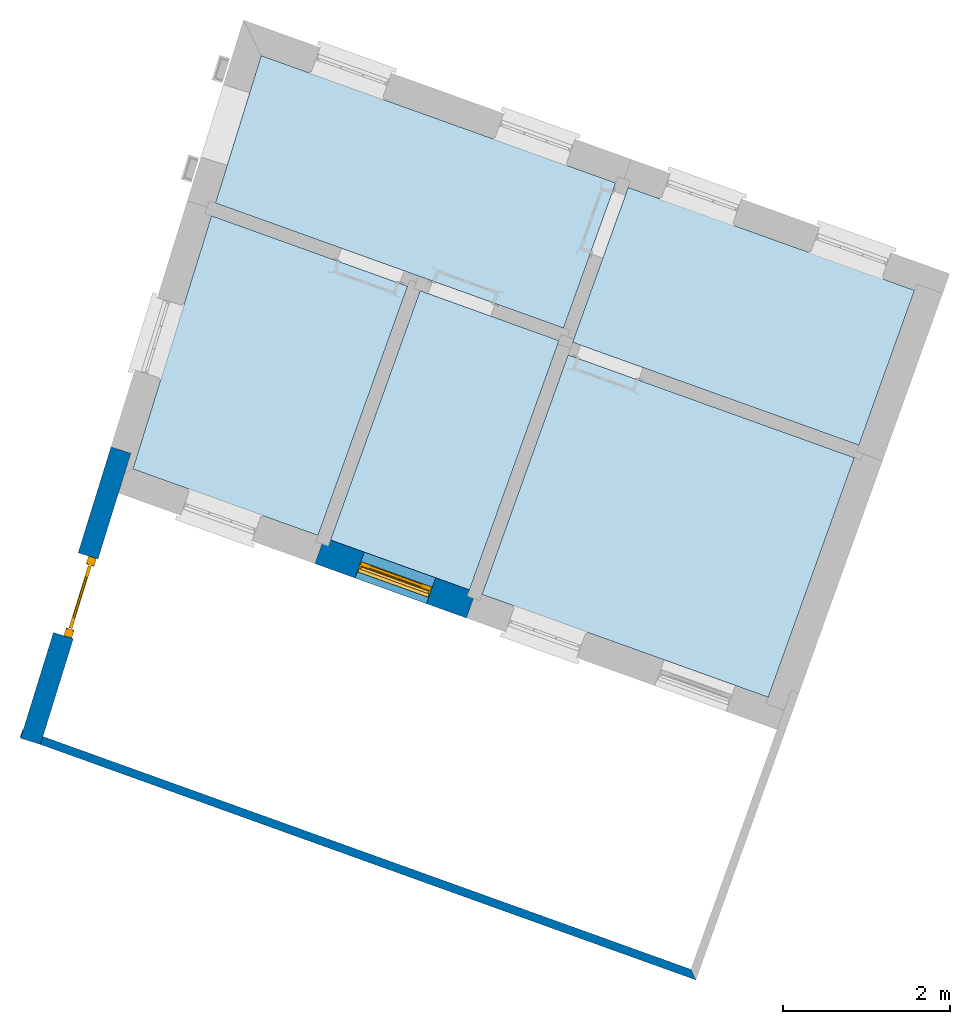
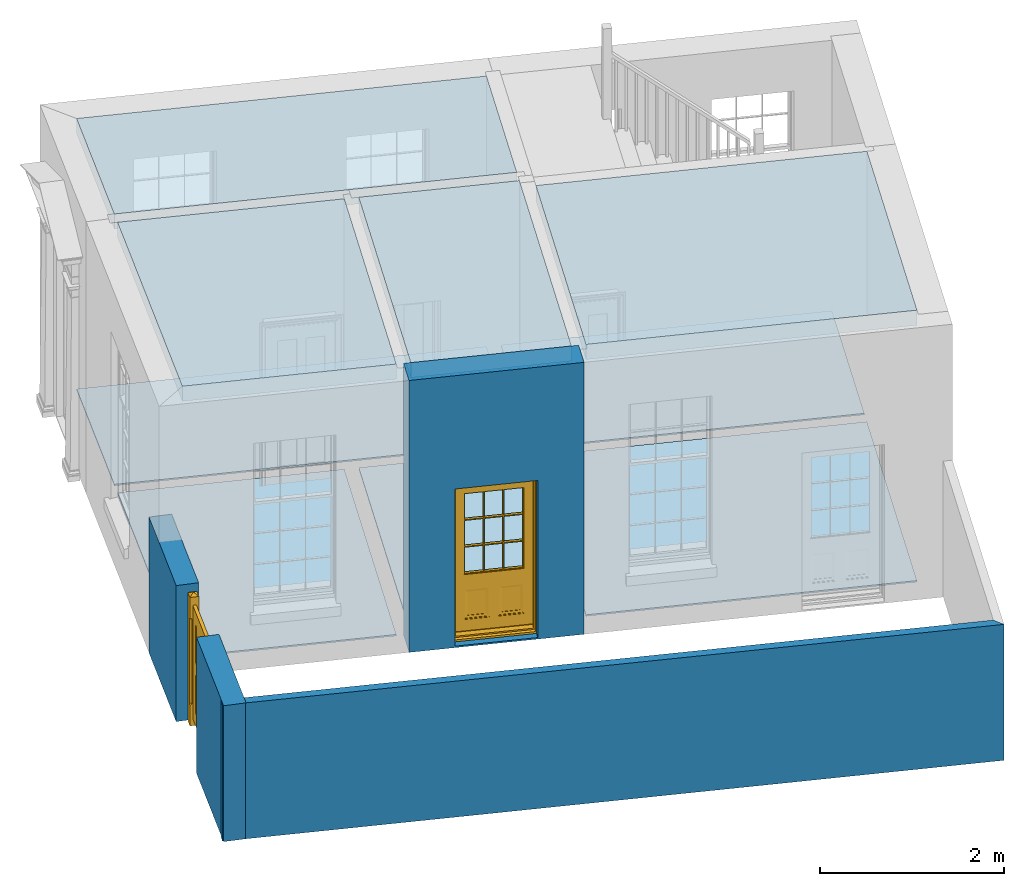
# One storey, part 1 of 6: 9 slabs, 3 walls, 2 doors, 2 openings.
"""IFC4 building model written with IfcOpenShell, lengths in metres."""

from ifc_helpers import new_model, si_unit, frame, origin, origin_with_axes, place, context, subcontext, project, spatial, polyline, outline, extrude, faceted_brep, source, transform, mapped, material, layer, layer_set, layer_usage, type_object, type_shapes, element, fill, save


model = new_model("IFC4")

# Units and contexts
model_context = context("Model", 3, world=origin_with_axes())
body_context = subcontext(model_context, "Body", "Model", "MODEL_VIEW")
ifc_project = project(units=[si_unit("PLANEANGLEUNIT", "RADIAN"), si_unit("MASSUNIT", "GRAM", prefix="KILO"), si_unit("FORCEUNIT", "NEWTON", prefix="KILO"), si_unit("LENGTHUNIT", "METRE"), si_unit("AREAUNIT", "SQUARE_METRE"), si_unit("VOLUMEUNIT", "CUBIC_METRE")], contexts=[model_context, model_context])

# Sites, building, storey
site_1_placement = place(None, origin_with_axes())
site_1 = spatial("IfcSite", under=ifc_project, at=site_1_placement, Name="Tamar")
site_2_placement = place(site_1_placement, origin_with_axes())
site_2 = spatial("IfcSite", under=site_1, at=site_2_placement, Name="Site plot-21", CompositionType="ELEMENT")
building_placement = place(None, origin_with_axes())
building = spatial("IfcBuilding", under=site_2, at=building_placement, Name="Building plot-21", CompositionType="ELEMENT")
storey_placement = place(None, frame((0.0, 0.0, 26.0), z_axis=(0.0, 0.0, 1.0), x_axis=(1.0, 0.0, 0.0)))
storey = spatial("IfcBuildingStorey", under=building, at=storey_placement, Name="plot-21 0", CompositionType="ELEMENT", Elevation=26.0)

# Slabs
slab_1_placement = place(storey_placement, frame((258.148824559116, 284.098444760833, 3.4)))
element("IfcSlab", 1, at=slab_1_placement, inside=storey, Name="My Slab", ObjectType="Slab", PredefinedType="FLOOR", context=body_context, shape_type="SweptSolid", body=[
    extrude(outline(polyline([(0.0, 0.0), (-1.03236079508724, -2.87298841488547), (2.40093777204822, -4.10668738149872), (3.43329856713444, -1.23369896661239), (0.0, 0.0)])), origin_with_axes(), (0.0, 0.0, 1.0), 0.2),
])
slab_2_placement = place(storey_placement, frame((258.148824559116, 284.098444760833, 0.0)))
element("IfcSlab", 2, at=slab_2_placement, inside=storey, Name="My Slab", ObjectType="Slab", PredefinedType="FLOOR", context=body_context, shape_type="SweptSolid", body=[
    extrude(outline(polyline([(0.0, 0.0), (-1.03236079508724, -2.87298841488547), (2.40093777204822, -4.10668738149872), (3.43329856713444, -1.23369896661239), (0.0, 0.0)])), origin_with_axes(), (0.0, 0.0, 1.0), 0.02),
])
slab_3_placement = place(storey_placement, frame((252.93040386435, 282.729647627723, 3.4)))
element("IfcSlab", 3, at=slab_3_placement, inside=storey, Name="My Slab", ObjectType="Slab", PredefinedType="FLOOR", context=body_context, shape_type="SweptSolid", body=[
    extrude(outline(polyline([(0.0, 0.0), (2.21918441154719, -0.797427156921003), (3.29332908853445, 2.19184290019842), (0.942260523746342, 3.03666044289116), (0.0, 0.0)])), origin_with_axes(), (0.0, 0.0, 1.0), 0.2),
])
slab_4_placement = place(storey_placement, frame((252.93040386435, 282.729647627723, 0.0)))
element("IfcSlab", 4, at=slab_4_placement, inside=storey, Name="My Slab", ObjectType="Slab", PredefinedType="FLOOR", context=body_context, shape_type="SweptSolid", body=[
    extrude(outline(polyline([(0.0, 0.0), (2.21918441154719, -0.797427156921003), (3.29332908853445, 2.19184290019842), (0.942260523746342, 3.03666044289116), (0.0, 0.0)])), origin_with_axes(), (0.0, 0.0, 1.0), 0.02),
])
slab_5_placement = place(storey_placement, frame((255.300162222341, 281.878114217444, 3.4)))
element("IfcSlab", 5, at=slab_5_placement, inside=storey, Name="My Slab", ObjectType="Slab", PredefinedType="FLOOR", context=body_context, shape_type="SweptSolid", body=[
    extrude(outline(polyline([(0.0, 0.0), (1.66572759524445, -0.598551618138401), (2.73987227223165, 2.39071843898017), (1.07414467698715, 2.98927005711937), (0.0, 0.0)])), origin_with_axes(), (0.0, 0.0, 1.0), 0.2),
])
slab_6_placement = place(storey_placement, frame((255.300162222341, 281.878114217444, 0.0)))
element("IfcSlab", 6, at=slab_6_placement, inside=storey, Name="My Slab", ObjectType="Slab", PredefinedType="FLOOR", context=body_context, shape_type="SweptSolid", body=[
    extrude(outline(polyline([(0.0, 0.0), (1.66572759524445, -0.598551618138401), (2.73987227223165, 2.39071843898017), (1.07414467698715, 2.98927005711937), (0.0, 0.0)])), origin_with_axes(), (0.0, 0.0, 1.0), 0.02),
])
slab_7_placement = place(storey_placement, frame((258.09414074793, 284.419406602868, 3.4)))
element("IfcSlab", 7, at=slab_7_placement, inside=storey, Name="My Slab", ObjectType="Slab", PredefinedType="FLOOR", context=body_context, shape_type="SweptSolid", body=[
    extrude(outline(polyline([(0.0, 0.0), (0.625322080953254, 1.74022793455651), (-3.62546866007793, 3.2676791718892), (-4.17401330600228, 1.49986253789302), (0.0, 0.0)])), origin_with_axes(), (0.0, 0.0, 1.0), 0.2),
])
slab_8_placement = place(storey_placement, frame((258.09414074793, 284.419406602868, 0.0)))
element("IfcSlab", 8, at=slab_8_placement, inside=storey, Name="My Slab", ObjectType="Slab", PredefinedType="FLOOR", context=body_context, shape_type="SweptSolid", body=[
    extrude(outline(polyline([(0.0, 0.0), (0.625322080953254, 1.74022793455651), (-3.62546866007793, 3.2676791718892), (-4.17401330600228, 1.49986253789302), (0.0, 0.0)])), origin_with_axes(), (0.0, 0.0, 1.0), 0.02),
])
slab_9_placement = place(storey_placement, frame((262.303335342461, 284.871829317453, 0.0)))
element("IfcSlab", 9, at=slab_9_placement, inside=storey, Name="My Slab", ObjectType="Slab", PredefinedType="FLOOR", context=body_context, shape_type="SweptSolid", body=[
    extrude(outline(polyline([(0.0, 0.0), (-3.43329856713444, 1.23369896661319), (-4.10040452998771, -0.622810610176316), (-0.667105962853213, -1.85650957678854), (0.0, 0.0)])), origin_with_axes(), (0.0, 0.0, 1.0), 0.02),
])

# Wall, opening, door
ifc_material_1 = material(Name="Masonry")
ifc_layer_1 = layer(ifc_material_1, 0.33, ventilated=False)
ifc_layer_set_1 = layer_set([ifc_layer_1], Name="exterior_0.08_0.25")
ifc_layer_usage_1 = layer_usage(ifc_layer_set_1, "AXIS2", "POSITIVE", -0.25)
wall_type_1 = type_object("IfcWallType", Name="exterior_0.08_0.25", PredefinedType="SOLIDWALL", material=ifc_layer_set_1)
wall_1_placement = place(storey_placement, frame((255.19782212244, 281.829880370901, 0.0), z_axis=(0.0, 0.0, 1.0), x_axis=(0.941087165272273, -0.338164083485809, 0.0)))
wall_1 = element("IfcWall", 10, at=wall_1_placement, inside=storey, type_object=wall_type_1, material=ifc_layer_usage_1, Name="exterior", context=body_context, shape_type="SweptSolid", body=[
    extrude(outline(polyline([(5.11284484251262e-14, 0.0799999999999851), (-1.19061832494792e-13, -0.250000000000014), (1.93000352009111, -0.249999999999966), (1.9300035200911, 0.0800000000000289), (5.11284484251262e-14, 0.0799999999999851)])), origin_with_axes(), (0.0, 0.0, 1.0), 3.6),
])
opening_1_placement = place(wall_1_placement, frame((0.510001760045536, 0.0, 0.0199999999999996)))
opening_1 = element("IfcOpeningElement", 11, at=opening_1_placement, cuts=wall_1, Name="My Opening", ObjectType="Opening", context=body_context, shape_type="SweptSolid", body=[
    extrude(outline(polyline([(0.0, -0.269999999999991), (0.910000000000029, -0.269999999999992), (0.910000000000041, 1.1), (1.24344978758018e-14, 1.1), (0.0, -0.269999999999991)])), origin_with_axes(), (0.0, 0.0, 1.0), 2.08),
])
door_type_1 = type_object("IfcDoorType", Name="door_panelled", OperationType="SINGLE_SWING_LEFT", PredefinedType="NOTDEFINED")
shared_shape_1 = source(origin(), body_context, "Body", "Brep", [
    faceted_brep([(0.545, 0.195, 0.265), (0.745, 0.195, 0.265), (0.745, 0.2, 0.265), (0.545, 0.2, 0.265), (0.745, 0.2, 0.58), (0.545, 0.2, 0.58), (0.545, 0.195, 0.58), (0.515, 0.19, 0.235), (0.775, 0.19, 0.235), (0.745, 0.195, 0.58), (0.515, 0.19, 0.61), (0.515, 0.185, 0.235), (0.775, 0.185, 0.235), (0.775, 0.19, 0.61), (0.515, 0.185, 0.61), (0.785, 0.185, 0.225), (0.505, 0.185, 0.225), (0.775, 0.185, 0.61), (0.505, 0.185, 0.62), (0.785, 0.185, 0.62), (0.505, 0.18, 0.225), (0.785, 0.18, 0.225), (0.505, 0.18, 0.62), (0.785, 0.18, 0.62), (0.883, 0.18, 0.075), (0.898, 0.18, 0.075), (0.405, 0.18, 0.62), (0.405, 0.18, 0.225), (0.027, 0.18, 0.075), (0.785, 0.18, 0.82), (0.125, 0.18, 0.82), (0.405, 0.185, 0.62), (0.405, 0.185, 0.225), (0.898, 0.18, 2.068), (0.027, 0.17, 0.075), (0.883, 0.17, 0.075), (0.125, 0.18, 0.225), (0.012, 0.18, 0.075), (0.785, 0.19, 0.82), (0.125, 0.19, 0.82), (0.125, 0.18, 0.62), (0.125, 0.185, 0.62), (0.395, 0.185, 0.61), (0.395, 0.185, 0.235), (0.125, 0.185, 0.225), (0.785, 0.18, 1.895), (0.027, 0.14, 0.045), (0.883, 0.14, 0.045), (0.558333, 0.19, 0.83), (0.351667, 0.19, 0.83), (0.125, 0.18, 1.895), (0.125, 0.19, 1.895), (0.785, 0.19, 1.895), (0.012, 0.18, 2.068), (0.135, 0.185, 0.61), (0.395, 0.19, 0.61), (0.395, 0.19, 0.235), (0.135, 0.185, 0.235), (0.027, 0.14, 0.027), (0.883, 0.14, 0.027), (0.568333, 0.19, 0.83), (0.558333, 0.22, 0.83), (0.351667, 0.22, 0.83), (0.341667, 0.19, 0.83), (0.135, 0.19, 1.185), (0.135, 0.19, 1.53), (0.775, 0.19, 1.53), (0.775, 0.19, 1.185), (0.135, 0.19, 0.61), (0.365, 0.195, 0.58), (0.365, 0.195, 0.265), (0.135, 0.19, 0.235), (0.568333, 0.19, 1.175), (0.558333, 0.19, 1.175), (0.775, 0.19, 0.83), (0.558333, 0.22, 1.175), (0.785, 0.22, 0.82), (0.125, 0.22, 0.82), (0.351667, 0.22, 1.175), (0.351667, 0.19, 1.175), (0.341667, 0.19, 1.175), (0.135, 0.19, 0.83), (0.135, 0.19, 1.175), (0.135, 0.22, 1.185), (0.135, 0.22, 1.53), (0.135, 0.19, 1.54), (0.351667, 0.19, 1.885), (0.558333, 0.19, 1.885), (0.775, 0.22, 1.53), (0.775, 0.22, 1.185), (0.775, 0.19, 1.175), (0.775, 0.19, 1.54), (0.165, 0.195, 0.58), (0.365, 0.2, 0.58), (0.365, 0.2, 0.265), (0.165, 0.195, 0.265), (0.568333, 0.22, 0.83), (0.568333, 0.22, 1.175), (0.568333, 0.19, 1.185), (0.558333, 0.19, 1.185), (0.775, 0.22, 0.83), (0.785, 0.23, 0.82), (0.125, 0.23, 0.82), (0.341667, 0.22, 0.83), (0.341667, 0.22, 1.175), (0.351667, 0.19, 1.185), (0.341667, 0.19, 1.185), (0.135, 0.22, 0.83), (0.341667, 0.22, 1.185), (0.125, 0.22, 1.895), (0.341667, 0.22, 1.53), (0.341667, 0.19, 1.53), (0.135, 0.19, 1.885), (0.341667, 0.19, 1.54), (0.341667, 0.19, 1.885), (0.558333, 0.22, 1.885), (0.351667, 0.22, 1.885), (0.568333, 0.19, 1.885), (0.785, 0.22, 1.895), (0.568333, 0.22, 1.185), (0.568333, 0.19, 1.53), (0.568333, 0.22, 1.53), (0.568333, 0.19, 1.54), (0.775, 0.19, 1.885), (0.165, 0.2, 0.58), (0.165, 0.2, 0.265), (0.775, 0.22, 1.175), (0.558333, 0.19, 1.53), (0.351667, 0.22, 1.185), (0.558333, 0.22, 1.185), (0.505, 0.23, 0.62), (0.405, 0.23, 0.62), (0.125, 0.23, 1.895), (0.785, 0.23, 1.895), (0.351667, 0.19, 1.53), (0.135, 0.22, 1.175), (0.135, 0.22, 1.54), (0.341667, 0.22, 1.54), (0.135, 0.22, 1.885), (0.351667, 0.19, 1.54), (0.558333, 0.22, 1.54), (0.558333, 0.19, 1.54), (0.351667, 0.22, 1.54), (0.775, 0.22, 1.54), (0.568333, 0.22, 1.54), (0.775, 0.22, 1.885), (0.558333, 0.22, 1.53), (0.405, 0.23, 0.225), (0.505, 0.23, 0.225), (0.125, 0.23, 0.62), (0.785, 0.23, 0.62), (0.012, 0.23, 2.068), (0.898, 0.23, 2.068), (0.351667, 0.22, 1.53), (0.341667, 0.22, 1.885), (0.568333, 0.22, 1.885), (0.405, 0.225, 0.225), (0.405, 0.225, 0.62), (0.505, 0.225, 0.62), (0.505, 0.225, 0.225), (0.898, 0.23, 0.027), (0.012, 0.23, 0.027), (0.125, 0.225, 0.62), (0.785, 0.225, 0.62), (0.395, 0.225, 0.235), (0.395, 0.225, 0.61), (0.125, 0.23, 0.225), (0.125, 0.225, 0.225), (0.515, 0.225, 0.61), (0.515, 0.225, 0.235), (0.785, 0.23, 0.225), (0.785, 0.225, 0.225), (0.135, 0.225, 0.61), (0.775, 0.225, 0.61), (0.135, 0.225, 0.235), (0.395, 0.22, 0.235), (0.395, 0.22, 0.61), (0.515, 0.22, 0.61), (0.515, 0.22, 0.235), (0.775, 0.225, 0.235), (0.135, 0.22, 0.61), (0.775, 0.22, 0.61), (0.135, 0.22, 0.235), (0.365, 0.215, 0.265), (0.365, 0.215, 0.58), (0.545, 0.215, 0.58), (0.545, 0.215, 0.265), (0.775, 0.22, 0.235), (0.165, 0.215, 0.58), (0.745, 0.215, 0.58), (0.165, 0.215, 0.265), (0.365, 0.21, 0.58), (0.365, 0.21, 0.265), (0.545, 0.21, 0.58), (0.545, 0.21, 0.265), (0.745, 0.215, 0.265), (0.165, 0.21, 0.58), (0.745, 0.21, 0.58), (0.165, 0.21, 0.265), (0.745, 0.21, 0.265), (0.885, 0.178, 0.025), (0.025, 0.178, 0.025), (0.025, 0.15, 0.025), (0.885, 0.15, 0.025), (0.9, 0.23, 0.025), (0.01, 0.23, 0.025), (0.9, 0.178, 0.025), (0.91, 0.23, 0.0), (0.0, 0.23, 0.0), (0.01, 0.178, 0.025), (0.9, 0.178, 2.07), (0.9, 0.23, 2.07), (0.885, 0.178, 2.055), (0.91, 0.23, 2.08), (0.01, 0.23, 2.07), (0.0, 0.23, 2.08), (0.01, 0.178, 2.07), (0.025, 0.178, 2.055), (0.0, 0.1, 2.08), (0.91, 0.1, 2.08), (0.01, 0.1, 2.07), (0.9, 0.1, 2.07), (0.01, 0.15, 2.07), (0.9, 0.15, 2.07), (0.0, 0.1, 0.0), (0.91, 0.1, 0.0), (0.01, 0.1, 0.025), (0.9, 0.1, 0.025), (0.01, 0.15, 0.025), (0.025, 0.15, 2.055), (0.9, 0.15, 0.025), (0.885, 0.15, 2.055), (0.898, 0.18, 0.027), (0.012, 0.18, 0.027), (0.883, 0.18, 0.027), (0.027, 0.18, 0.027)], [[[0, 1, 2, 3]], [[2, 4, 5, 3]], [[0, 3, 5, 6]], [[1, 0, 7, 8]], [[9, 4, 2, 1]], [[9, 6, 5, 4]], [[0, 6, 10, 7]], [[8, 7, 11, 12]], [[8, 13, 9, 1]], [[13, 10, 6, 9]], [[7, 10, 14, 11]], [[15, 12, 11, 16]], [[12, 17, 13, 8]], [[17, 14, 10, 13]], [[18, 16, 11, 14]], [[15, 19, 17, 12]], [[15, 16, 20, 21]], [[14, 17, 19, 18]], [[16, 18, 22, 20]], [[21, 23, 19, 15]], [[24, 25, 21, 20]], [[23, 22, 18, 19]], [[20, 22, 26, 27]], [[23, 21, 25]], [[28, 24, 20, 27]], [[22, 23, 29]], [[29, 30, 26, 22]], [[27, 26, 31, 32]], [[23, 25, 33, 29]], [[34, 35, 24, 28]], [[28, 27, 36, 37]], [[38, 39, 30, 29]], [[26, 30, 40]], [[26, 40, 41, 31]], [[42, 43, 32, 31]], [[32, 44, 36, 27]], [[33, 45, 29]], [[46, 47, 35, 34]], [[36, 40, 37]], [[39, 38, 48, 49]], [[50, 30, 39, 51]], [[29, 45, 52, 38]], [[53, 37, 40, 30]], [[44, 41, 40, 36]], [[31, 41, 54, 42]], [[43, 42, 55, 56]], [[57, 44, 32, 43]], [[50, 45, 33, 53]], [[47, 46, 58, 59]], [[60, 48, 38]], [[49, 48, 61, 62]], [[49, 63, 39]], [[50, 53, 30]], [[51, 39, 64, 65]], [[45, 50, 51, 52]], [[66, 67, 38, 52]], [[57, 54, 41, 44]], [[42, 54, 68, 55]], [[56, 55, 69, 70]], [[56, 71, 57, 43]], [[60, 72, 73, 48]], [[60, 38, 74]], [[48, 73, 75, 61]], [[76, 77, 62, 61]], [[62, 78, 79, 49]], [[49, 79, 80, 63]], [[63, 81, 39]], [[82, 64, 39]], [[65, 64, 83, 84]], [[85, 51, 65]], [[52, 51, 86, 87]], [[88, 89, 67, 66]], [[90, 38, 67]], [[91, 66, 52]], [[71, 68, 54, 57]], [[55, 68, 92, 69]], [[69, 93, 94, 70]], [[70, 95, 71, 56]], [[96, 97, 72, 60]], [[73, 72, 98, 99]], [[74, 38, 90]], [[100, 96, 60, 74]], [[75, 73, 79, 78]], [[61, 75, 97, 96]], [[101, 102, 77, 76]], [[77, 103, 62]], [[96, 76, 61]], [[103, 104, 78, 62]], [[80, 79, 105, 106]], [[63, 80, 104, 103]], [[81, 63, 103, 107]], [[81, 82, 39]], [[106, 64, 82, 80]], [[106, 108, 83, 64]], [[84, 83, 77, 109]], [[110, 111, 65, 84]], [[112, 51, 85]], [[113, 85, 65, 111]], [[114, 86, 51]], [[115, 87, 86, 116]], [[117, 52, 87]], [[118, 76, 89, 88]], [[119, 98, 67, 89]], [[120, 121, 88, 66]], [[67, 98, 72, 90]], [[91, 122, 120, 66]], [[91, 52, 123]], [[95, 92, 68, 71]], [[69, 92, 124, 93]], [[94, 93, 124, 125]], [[94, 125, 95, 70]], [[72, 97, 126, 90]], [[127, 99, 98, 120]], [[99, 105, 79, 73]], [[74, 90, 126, 100]], [[96, 100, 76]], [[128, 129, 75, 78]], [[97, 75, 129, 119]], [[130, 131, 102, 101]], [[109, 77, 102, 132]], [[133, 101, 76, 118]], [[77, 107, 103]], [[78, 104, 108, 128]], [[111, 106, 105, 134]], [[104, 80, 82, 135]], [[107, 135, 82, 81]], [[110, 108, 106, 111]], [[104, 135, 83, 108]], [[83, 135, 77]], [[136, 84, 109]], [[110, 84, 136, 137]], [[114, 51, 112]], [[85, 136, 138, 112]], [[113, 137, 136, 85]], [[111, 134, 139, 113]], [[86, 114, 113, 139]], [[140, 141, 87, 115]], [[139, 142, 116, 86]], [[109, 118, 115, 116]], [[117, 123, 52]], [[117, 87, 141, 122]], [[126, 89, 76]], [[143, 118, 88]], [[120, 98, 119, 121]], [[119, 89, 126, 97]], [[144, 143, 88, 121]], [[144, 122, 91, 143]], [[127, 120, 122, 141]], [[143, 91, 123, 145]], [[124, 92, 95, 125]], [[146, 129, 99, 127]], [[99, 129, 128, 105]], [[100, 126, 76]], [[121, 119, 129, 146]], [[147, 131, 130, 148]], [[131, 149, 102]], [[130, 101, 150]], [[102, 151, 132]], [[118, 109, 132, 133]], [[101, 133, 152]], [[107, 77, 135]], [[153, 128, 108, 110]], [[134, 105, 128, 153]], [[109, 138, 136]], [[153, 110, 137, 142]], [[154, 114, 112, 138]], [[137, 113, 114, 154]], [[141, 139, 134, 127]], [[141, 140, 142, 139]], [[144, 140, 115, 155]], [[142, 137, 154, 116]], [[155, 115, 118]], [[116, 154, 109]], [[117, 155, 145, 123]], [[122, 144, 155, 117]], [[143, 145, 118]], [[121, 146, 140, 144]], [[146, 127, 134, 153]], [[156, 157, 131, 147]], [[148, 130, 158, 159]], [[148, 160, 161, 147]], [[157, 162, 149, 131]], [[161, 151, 102, 149]], [[101, 152, 160, 150]], [[163, 158, 130, 150]], [[151, 152, 133, 132]], [[154, 138, 109]], [[142, 140, 146, 153]], [[145, 155, 118]], [[157, 156, 164, 165]], [[147, 166, 167, 156]], [[168, 169, 159, 158]], [[170, 148, 159, 171]], [[148, 170, 160]], [[166, 147, 161]], [[172, 162, 157, 165]], [[166, 149, 162, 167]], [[166, 161, 149]], [[150, 160, 170]], [[163, 173, 168, 158]], [[171, 163, 150, 170]], [[174, 164, 156, 167]], [[175, 176, 165, 164]], [[169, 168, 177, 178]], [[171, 159, 169, 179]], [[167, 162, 172, 174]], [[176, 180, 172, 165]], [[179, 173, 163, 171]], [[181, 177, 168, 173]], [[164, 174, 182, 175]], [[183, 184, 176, 175]], [[178, 177, 185, 186]], [[179, 169, 178, 187]], [[174, 172, 180, 182]], [[184, 188, 180, 176]], [[187, 181, 173, 179]], [[189, 185, 177, 181]], [[175, 182, 190, 183]], [[191, 184, 183, 192]], [[185, 193, 194, 186]], [[187, 178, 186, 195]], [[182, 180, 188, 190]], [[191, 196, 188, 184]], [[195, 189, 181, 187]], [[197, 193, 185, 189]], [[183, 190, 198, 192]], [[198, 196, 191, 192]], [[194, 193, 197, 199]], [[195, 186, 194, 199]], [[188, 196, 198, 190]], [[197, 189, 195, 199]], [[200, 201, 202, 203]], [[201, 200, 204, 205]], [[206, 204, 200]], [[204, 207, 208, 205]], [[209, 201, 205]], [[210, 211, 204, 206]], [[206, 200, 212, 210]], [[211, 213, 207, 204]], [[214, 205, 208, 215]], [[216, 217, 201, 209]], [[205, 214, 216, 209]], [[216, 214, 211, 210]], [[210, 212, 217, 216]], [[214, 215, 213, 211]], [[218, 219, 213, 215]], [[219, 218, 220, 221]], [[221, 220, 222, 223]], [[215, 208, 224, 218]], [[225, 224, 208, 207]], [[224, 226, 220, 218]], [[224, 225, 227, 226]], [[219, 225, 207, 213]], [[228, 222, 220, 226]], [[219, 221, 227, 225]], [[226, 227, 203, 202]], [[202, 229, 222, 228]], [[228, 226, 202]], [[227, 221, 223, 230]], [[230, 203, 227]], [[217, 229, 202, 201]], [[231, 223, 222, 229]], [[230, 223, 231, 203]], [[231, 229, 217, 212]], [[212, 200, 203, 231]], [[33, 152, 151, 53]], [[25, 160, 152, 33]], [[161, 37, 53, 151]], [[232, 160, 25]], [[161, 233, 37]], [[160, 232, 234]], [[24, 234, 232, 25]], [[233, 161, 235]], [[37, 233, 235, 28]], [[161, 160, 234, 235]], [[35, 47, 234, 24]], [[28, 235, 46, 34]], [[58, 235, 234, 59]], [[59, 234, 47]], [[58, 46, 235]]]),
])
type_shapes(door_type_1, [shared_shape_1])
door_1_placement = place(storey_placement, frame((255.586473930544, 281.403322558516, 0.0199999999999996), z_axis=(0.0, 0.0, 1.0), x_axis=(0.856389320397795, -0.307729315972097, 0.0)))
door_1 = element("IfcDoor", 12, at=door_1_placement, inside=storey, type_object=door_type_1, Name="bedroom outside door", OverallHeight=2.08, OverallWidth=0.91, context=body_context, shape_type="MappedRepresentation", body=[
    mapped(shared_shape_1, transform((0.0, 0.0, 0.0), scale=1.0)),
])
fill(opening_1, door_1)

# Wall
ifc_material_2 = material(Name="Masonry")
ifc_layer_2 = layer(ifc_material_2, 0.1, ventilated=False)
ifc_layer_set_2 = layer_set([ifc_layer_2], Name="fence_-0.15_0.25")
ifc_layer_usage_2 = layer_usage(ifc_layer_set_2, "AXIS2", "POSITIVE", -0.25)
wall_type_2 = type_object("IfcWallType", Name="fence_-0.15_0.25", PredefinedType="SOLIDWALL", material=ifc_layer_set_2)
wall_2_placement = place(storey_placement, frame((251.895568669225, 279.664588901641, 0.0), z_axis=(0.0, 0.0, 1.0), x_axis=(0.941087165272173, -0.338164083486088, 0.0)))
element("IfcWall", 13, at=wall_2_placement, inside=storey, type_object=wall_type_2, material=ifc_layer_usage_2, Name="fence", context=body_context, shape_type="SweptSolid", body=[
    extrude(outline(polyline([(-0.250000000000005, -0.14999999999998), (-0.249999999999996, -0.249999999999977), (8.36371395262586, -0.250000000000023), (8.26371395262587, -0.149999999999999), (-0.250000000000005, -0.14999999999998)])), origin_with_axes(), (0.0, 0.0, 1.0), 1.8),
])

# Wall, opening, door
ifc_material_3 = material(Name="Masonry")
ifc_layer_3 = layer(ifc_material_3, 0.25, ventilated=False)
ifc_layer_set_3 = layer_set([ifc_layer_3], Name="fence_0_0.25")
ifc_layer_usage_3 = layer_usage(ifc_layer_set_3, "AXIS2", "POSITIVE", -0.25)
wall_type_3 = type_object("IfcWallType", Name="fence_0_0.25", PredefinedType="SOLIDWALL", material=ifc_layer_set_3)
wall_3_placement = place(storey_placement, frame((252.8313121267, 282.680246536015, 0.0), z_axis=(0.0, 0.0, 1.0), x_axis=(-0.296355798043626, -0.955077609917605, 0.0)))
wall_3 = element("IfcWall", 14, at=wall_3_placement, inside=storey, type_object=wall_type_3, material=ifc_layer_usage_3, Name="fence", context=body_context, shape_type="SweptSolid", body=[
    extrude(outline(polyline([(-0.250000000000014, -1.6906006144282e-14), (-0.250000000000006, -0.250000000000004), (3.40750008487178, -0.24999999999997), (3.40750008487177, 1.81588082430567e-14), (-0.250000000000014, -1.6906006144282e-14)])), origin_with_axes(), (0.0, 0.0, 1.0), 1.8),
])
opening_2_placement = place(wall_3_placement, frame((1.07875004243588, 0.0, -0.0100000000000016)))
opening_2 = element("IfcOpeningElement", 15, at=opening_2_placement, cuts=wall_3, Name="My Opening", ObjectType="Opening", context=body_context, shape_type="SweptSolid", body=[
    extrude(outline(polyline([(0.0, -0.269999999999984), (0.999999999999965, -0.270000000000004), (0.99999999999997, 1.01999999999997), (5.10702591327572e-15, 1.01999999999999), (0.0, -0.269999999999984)])), origin_with_axes(), (0.0, 0.0, 1.0), 1.81),
])
door_type_2 = type_object("IfcDoorType", Name="gate-small", OperationType="SINGLE_SWING_LEFT", PredefinedType="NOTDEFINED")
shared_shape_2 = source(origin(), body_context, "Body", "Brep", [
    faceted_brep([(0.9, 0.25, 1.7), (0.9, 0.15, 1.7), (0.95, 0.2, 1.73), (1.0, 0.15, 1.433333), (1.0, 0.15, 1.7), (0.9, 0.15, 1.433333), (0.9, 0.25, 1.433333), (0.9, 0.25, 0.0), (1.0, 0.25, 0.0), (1.0, 0.15, 0.0), (0.9, 0.15, 0.0), (1.0, 0.25, 1.433333), (1.0, 0.25, 1.7), (0.9, 0.25, 0.266667), (1.0, 0.25, 0.266667), (1.0, 0.25, 0.291667), (0.925, 0.25, 0.291667), (0.925, 0.25, 1.408333), (1.0, 0.25, 1.408333), (1.0, 0.15, 0.266667), (1.0, 0.15, 0.291667), (1.0, 0.15, 1.408333), (0.9, 0.15, 0.266667), (0.9, 0.175, 0.291667), (0.9, 0.225, 0.291667), (0.925, 0.15, 0.291667), (0.9, 0.175, 1.408333), (0.925, 0.15, 1.408333), (0.9, 0.225, 1.408333), (0.0, 0.25, 1.7), (0.0, 0.15, 1.7), (0.05, 0.2, 1.73), (0.0, 0.25, 1.433333), (0.1, 0.25, 1.7), (0.1, 0.25, 1.433333), (0.1, 0.15, 1.7), (0.1, 0.15, 1.433333), (0.1, 0.15, 0.0), (0.0, 0.15, 0.0), (0.0, 0.25, 0.0), (0.1, 0.25, 0.0), (0.0, 0.15, 1.433333), (0.1, 0.15, 0.266667), (0.0, 0.15, 0.266667), (0.0, 0.15, 0.291667), (0.075, 0.15, 0.291667), (0.075, 0.15, 1.408333), (0.0, 0.15, 1.408333), (0.0, 0.25, 0.266667), (0.0, 0.25, 0.291667), (0.0, 0.25, 1.408333), (0.1, 0.25, 0.266667), (0.1, 0.225, 0.291667), (0.1, 0.175, 0.291667), (0.075, 0.25, 0.291667), (0.1, 0.225, 1.408333), (0.075, 0.25, 1.408333), (0.1, 0.175, 1.408333), (0.11, 0.18, 1.433333), (0.11, 0.18, 1.6), (0.11, 0.22, 1.6), (0.11, 0.22, 1.433333), (0.76, 0.22, 1.433333), (0.76, 0.22, 1.6), (0.89, 0.22, 1.6), (0.89, 0.22, 1.433333), (0.89, 0.18, 1.6), (0.89, 0.18, 1.433333), (0.24, 0.18, 1.433333), (0.24, 0.18, 1.6), (0.76, 0.22, 0.1), (0.89, 0.22, 0.1), (0.89, 0.18, 0.1), (0.76, 0.18, 0.1), (0.24, 0.22, 1.6), (0.76, 0.18, 1.6), (0.11, 0.22, 0.1), (0.24, 0.22, 0.1), (0.24, 0.18, 0.1), (0.11, 0.18, 0.1), (0.76, 0.18, 1.433333), (0.24, 0.22, 1.433333), (0.76, 0.18, 0.266667), (0.24, 0.18, 0.266667), (0.24, 0.22, 0.933333), (0.11, 0.22, 0.933333), (0.76, 0.18, 0.933333), (0.24, 0.18, 0.933333), (0.24, 0.18, 0.766667), (0.76, 0.18, 0.766667), (0.11, 0.22, 0.766667), (0.24, 0.22, 0.766667), (0.24, 0.22, 0.266667), (0.11, 0.22, 0.266667), (0.76, 0.22, 0.766667), (0.76, 0.21, 0.766667), (0.24, 0.21, 0.766667), (0.76, 0.22, 0.933333), (0.76, 0.21, 0.933333), (0.76, 0.21, 1.433333), (0.76, 0.22, 0.266667), (0.89, 0.18, 0.766667), (0.89, 0.18, 0.266667), (0.89, 0.18, 0.933333), (0.11, 0.18, 0.766667), (0.11, 0.18, 0.266667), (0.11, 0.18, 0.933333), (0.89, 0.22, 0.766667), (0.89, 0.22, 0.266667), (0.89, 0.22, 0.933333), (0.76, 0.19, 0.266667), (0.24, 0.19, 0.266667), (0.76, 0.19, 0.933333), (0.24, 0.19, 0.933333), (0.24, 0.19, 1.433333), (0.76, 0.19, 1.433333), (0.24, 0.19, 0.766667), (0.76, 0.19, 0.766667), (0.24, 0.21, 1.433333), (0.24, 0.21, 0.933333), (0.76, 0.21, 0.266667), (0.24, 0.21, 0.266667)], [[[0, 1, 2]], [[3, 4, 1]], [[3, 1, 5]], [[5, 1, 0]], [[5, 0, 6]], [[7, 8, 9]], [[7, 9, 10]], [[11, 12, 4]], [[11, 4, 3]], [[6, 0, 12]], [[6, 12, 11]], [[7, 13, 14]], [[7, 14, 8]], [[15, 14, 13]], [[15, 13, 16]], [[17, 18, 15]], [[17, 15, 16]], [[17, 6, 11]], [[17, 11, 18]], [[8, 14, 19]], [[8, 19, 9]], [[14, 15, 20]], [[14, 20, 19]], [[15, 18, 21]], [[15, 21, 20]], [[18, 11, 3]], [[18, 3, 21]], [[10, 22, 13]], [[10, 13, 7]], [[23, 24, 13]], [[23, 13, 22]], [[25, 23, 22]], [[5, 26, 27]], [[9, 19, 22]], [[9, 22, 10]], [[19, 20, 25]], [[19, 25, 22]], [[28, 17, 16]], [[28, 16, 24]], [[21, 3, 5]], [[21, 5, 27]], [[21, 27, 25]], [[21, 25, 20]], [[25, 27, 26]], [[25, 26, 23]], [[16, 13, 24]], [[26, 28, 24]], [[26, 24, 23]], [[28, 26, 5]], [[28, 5, 6]], [[17, 28, 6]], [[29, 30, 31]], [[32, 29, 33]], [[32, 33, 34]], [[34, 33, 35]], [[34, 35, 36]], [[37, 38, 39]], [[37, 39, 40]], [[41, 30, 29]], [[41, 29, 32]], [[36, 35, 30]], [[36, 30, 41]], [[37, 42, 43]], [[37, 43, 38]], [[44, 43, 42]], [[44, 42, 45]], [[46, 47, 44]], [[46, 44, 45]], [[46, 36, 41]], [[46, 41, 47]], [[38, 43, 48]], [[38, 48, 39]], [[43, 44, 49]], [[43, 49, 48]], [[44, 47, 50]], [[44, 50, 49]], [[47, 41, 32]], [[47, 32, 50]], [[40, 51, 42]], [[40, 42, 37]], [[52, 53, 42]], [[52, 42, 51]], [[54, 52, 51]], [[34, 55, 56]], [[39, 48, 51]], [[39, 51, 40]], [[48, 49, 54]], [[48, 54, 51]], [[57, 46, 45]], [[57, 45, 53]], [[50, 32, 34]], [[50, 34, 56]], [[50, 56, 54]], [[50, 54, 49]], [[54, 56, 55]], [[54, 55, 52]], [[45, 42, 53]], [[55, 57, 53]], [[55, 53, 52]], [[57, 55, 34]], [[57, 34, 36]], [[46, 57, 36]], [[33, 29, 31]], [[35, 33, 31]], [[35, 31, 30]], [[12, 0, 2]], [[4, 12, 2]], [[4, 2, 1]], [[58, 59, 60]], [[58, 60, 61]], [[62, 63, 64]], [[62, 64, 65]], [[65, 64, 66]], [[65, 66, 67]], [[68, 69, 59]], [[68, 59, 58]], [[70, 71, 72]], [[70, 72, 73]], [[74, 60, 59]], [[74, 59, 69]], [[64, 63, 75]], [[64, 75, 66]], [[74, 69, 75]], [[74, 75, 63]], [[76, 77, 78]], [[76, 78, 79]], [[77, 70, 73]], [[77, 73, 78]], [[67, 66, 75]], [[67, 75, 80]], [[81, 74, 63]], [[81, 63, 62]], [[61, 60, 74]], [[61, 74, 81]], [[82, 83, 78]], [[82, 78, 73]], [[75, 69, 68]], [[75, 68, 80]], [[61, 81, 84]], [[61, 84, 85]], [[86, 87, 88]], [[86, 88, 89]], [[90, 91, 92]], [[90, 92, 93]], [[76, 93, 92]], [[76, 92, 77]], [[91, 94, 95]], [[91, 95, 96]], [[90, 85, 84]], [[90, 84, 91]], [[62, 97, 98]], [[62, 98, 99]], [[77, 92, 100]], [[77, 100, 70]], [[101, 89, 82]], [[101, 82, 102]], [[91, 84, 97]], [[91, 97, 94]], [[67, 80, 86]], [[67, 86, 103]], [[72, 102, 82]], [[72, 82, 73]], [[88, 104, 105]], [[88, 105, 83]], [[101, 103, 86]], [[101, 86, 89]], [[68, 58, 106]], [[68, 106, 87]], [[78, 83, 105]], [[78, 105, 79]], [[107, 101, 102]], [[107, 102, 108]], [[88, 87, 106]], [[88, 106, 104]], [[65, 67, 103]], [[65, 103, 109]], [[71, 108, 102]], [[71, 102, 72]], [[94, 107, 108]], [[94, 108, 100]], [[107, 109, 103]], [[107, 103, 101]], [[62, 65, 109]], [[62, 109, 97]], [[70, 100, 108]], [[70, 108, 71]], [[105, 104, 90]], [[105, 90, 93]], [[94, 97, 109]], [[94, 109, 107]], [[106, 58, 61]], [[106, 61, 85]], [[79, 105, 93]], [[79, 93, 76]], [[83, 82, 110]], [[83, 110, 111]], [[104, 106, 85]], [[104, 85, 90]], [[87, 86, 112]], [[87, 112, 113]], [[114, 113, 112]], [[114, 112, 115]], [[68, 87, 113]], [[68, 113, 114]], [[80, 68, 114]], [[80, 114, 115]], [[86, 80, 115]], [[86, 115, 112]], [[116, 111, 110]], [[116, 110, 117]], [[88, 83, 111]], [[88, 111, 116]], [[89, 88, 116]], [[89, 116, 117]], [[82, 89, 117]], [[82, 117, 110]], [[118, 99, 98]], [[118, 98, 119]], [[84, 81, 118]], [[84, 118, 119]], [[81, 62, 99]], [[81, 99, 118]], [[97, 84, 119]], [[97, 119, 98]], [[96, 95, 120]], [[96, 120, 121]], [[94, 100, 120]], [[94, 120, 95]], [[100, 92, 121]], [[100, 121, 120]], [[92, 91, 96]], [[92, 96, 121]]]),
])
type_shapes(door_type_2, [shared_shape_2])
door_2_placement = place(storey_placement, frame((252.253747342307, 281.729972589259, -0.0100000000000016), z_axis=(0.0, 0.0, 1.0), x_axis=(-0.296355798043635, -0.955077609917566, 0.0)))
door_2 = element("IfcDoor", 16, at=door_2_placement, inside=storey, type_object=door_type_2, Name="gate", OverallHeight=1.81, OverallWidth=1.0, context=body_context, shape_type="MappedRepresentation", body=[
    mapped(shared_shape_2, transform((0.0, 0.0, 0.0), scale=1.0)),
])
fill(opening_2, door_2)

save(model, "model.ifc")
